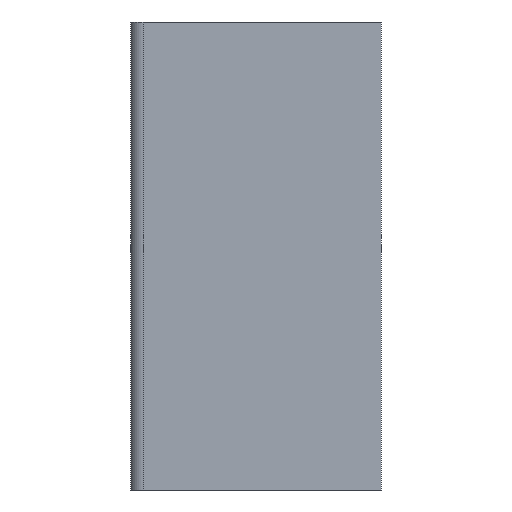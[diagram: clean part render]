
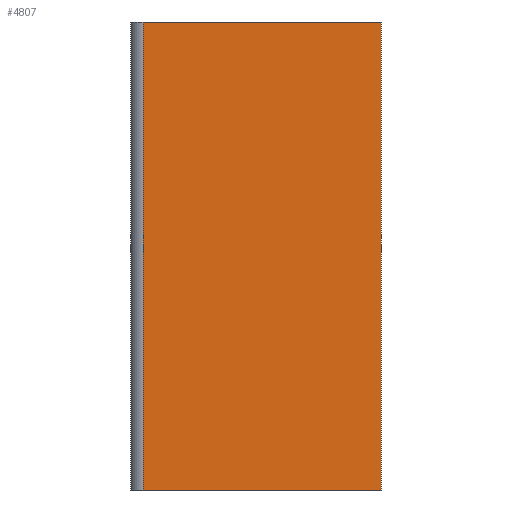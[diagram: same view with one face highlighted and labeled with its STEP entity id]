
A CAD part, left-side view. The second image highlights one B-rep face of the part: STEP entity #4807.
In plain terms, the highlighted planar face has unit normal (-1, 0, 0).
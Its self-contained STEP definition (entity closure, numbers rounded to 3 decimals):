
#25 = VERTEX_POINT ( 'NONE', #1704 ) ;
#916 = ORIENTED_EDGE ( 'NONE', *, *, #6010, .T. ) ;
#978 = EDGE_CURVE ( 'NONE', #1114, #5986, #5574, .T. ) ;
#1024 = ORIENTED_EDGE ( 'NONE', *, *, #978, .T. ) ;
#1114 = VERTEX_POINT ( 'NONE', #3722 ) ;
#1139 = EDGE_CURVE ( 'NONE', #1114, #3480, #3865, .T. ) ;
#1704 = CARTESIAN_POINT ( 'NONE',  ( -105., 42.1, -18.75 ) ) ;
#2968 = ORIENTED_EDGE ( 'NONE', *, *, #1139, .F. ) ;
#3480 = VERTEX_POINT ( 'NONE', #4415 ) ;
#3542 = LINE ( 'NONE', #3543, #3544 ) ;
#3543 = CARTESIAN_POINT ( 'NONE',  ( -105., 42.1, 18.75 ) ) ;
#3544 = VECTOR ( 'NONE', #3545, 1000. ) ;
#3545 = DIRECTION ( 'NONE',  ( 0., 0., -1. ) ) ;
#3699 = EDGE_CURVE ( 'NONE', #3480, #25, #4508, .T. ) ;
#3722 = CARTESIAN_POINT ( 'NONE',  ( -105., 23., 18.75 ) ) ;
#3865 = LINE ( 'NONE', #3866, #3867 ) ;
#3866 = CARTESIAN_POINT ( 'NONE',  ( -105., 23., 18.75 ) ) ;
#3867 = VECTOR ( 'NONE', #3868, 1000. ) ;
#3868 = DIRECTION ( 'NONE',  ( 0., 0., -1. ) ) ;
#4055 = ORIENTED_EDGE ( 'NONE', *, *, #3699, .F. ) ;
#4415 = CARTESIAN_POINT ( 'NONE',  ( -105., 23., -18.75 ) ) ;
#4508 = LINE ( 'NONE', #4509, #4515 ) ;
#4509 = CARTESIAN_POINT ( 'NONE',  ( -105., 23., -18.75 ) ) ;
#4515 = VECTOR ( 'NONE', #4516, 1000. ) ;
#4516 = DIRECTION ( 'NONE',  ( 0., 1., 0. ) ) ;
#4564 = EDGE_LOOP ( 'NONE', ( #4055, #2968, #1024, #916 ) ) ;
#4807 = ADVANCED_FACE ( 'NONE', ( #5044 ), #5045, .T. ) ;
#5044 = FACE_OUTER_BOUND ( 'NONE', #4564, .T. ) ;
#5045 = PLANE ( 'NONE',  #5046 ) ;
#5046 = AXIS2_PLACEMENT_3D ( 'NONE', #5047, #5048, #5049 ) ;
#5047 = CARTESIAN_POINT ( 'NONE',  ( -105., 23., 18.75 ) ) ;
#5048 = DIRECTION ( 'NONE',  ( -1., 0., 0. ) ) ;
#5049 = DIRECTION ( 'NONE',  ( 0., 0., 1. ) ) ;
#5574 = LINE ( 'NONE', #5575, #5576 ) ;
#5575 = CARTESIAN_POINT ( 'NONE',  ( -105., 23., 18.75 ) ) ;
#5576 = VECTOR ( 'NONE', #5577, 1000. ) ;
#5577 = DIRECTION ( 'NONE',  ( 0., 1., 0. ) ) ;
#5835 = CARTESIAN_POINT ( 'NONE',  ( -105., 42.1, 18.75 ) ) ;
#5986 = VERTEX_POINT ( 'NONE', #5835 ) ;
#6010 = EDGE_CURVE ( 'NONE', #5986, #25, #3542, .T. ) ;
